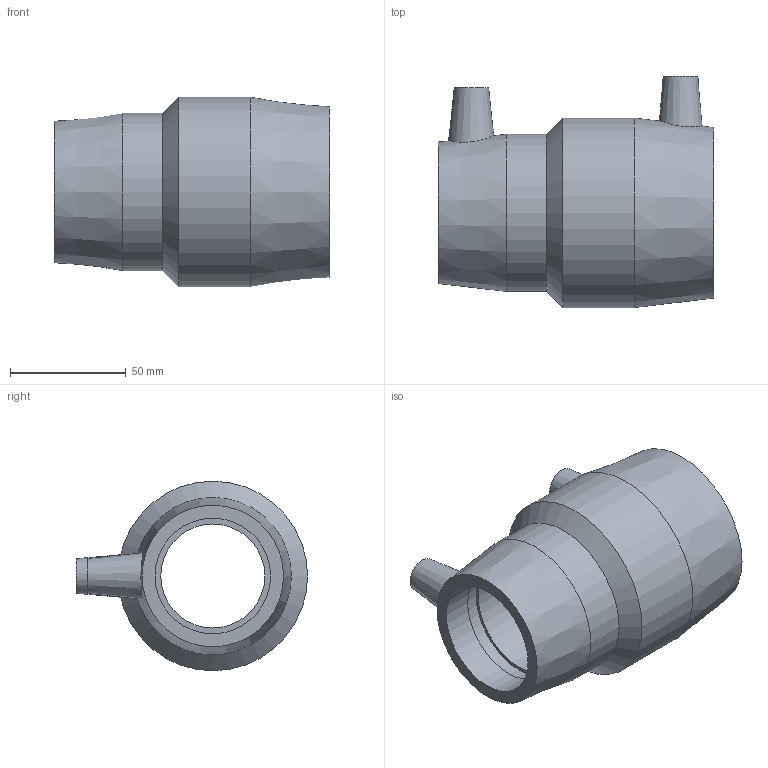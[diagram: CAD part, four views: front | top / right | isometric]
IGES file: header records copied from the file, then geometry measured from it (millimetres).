
Global section: file name: 491104063050.ipt; native system: Autodesk Inventor 2015; preprocessor: unknown; author: KIM; date: 20171106.093724; units: millimetre
Bounding box: 119 x 100 x 82 mm (x, y, z)
Volume: 219263.6 mm3; surface area: 56831.3 mm2
Topology: 1 solids, 1 shells, 31 faces, 72 edges, 51 vertices
Faces by surface type: plane 12, revolution 10, cone 5, cylinder 4
Full cylindrical faces by diameter (mm): 4 x2, 68 x1, 82 x1
